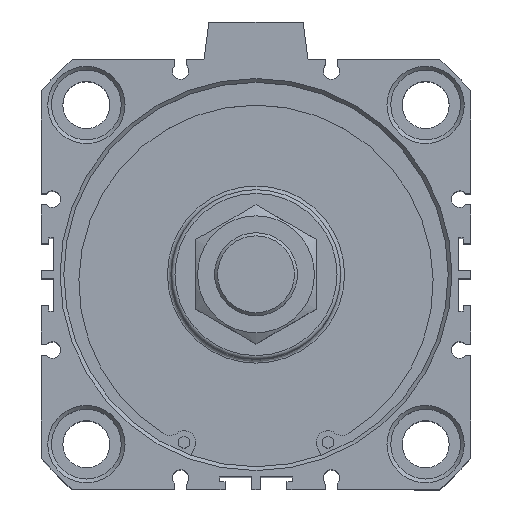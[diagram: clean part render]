
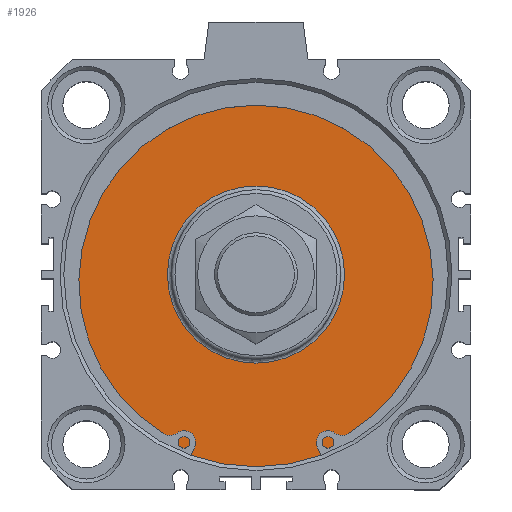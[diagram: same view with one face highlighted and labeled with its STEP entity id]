
A CAD part, top view. The second image highlights one B-rep face of the part: STEP entity #1926.
In plain terms, the highlighted planar face has unit normal (0, 0, 1).
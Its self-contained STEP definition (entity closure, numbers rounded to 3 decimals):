
#1875=CARTESIAN_POINT('',(-3.11,25.175,87.6));
#1876=VERTEX_POINT('',#1875);
#1877=CARTESIAN_POINT('',(-3.11,1.675,87.6));
#1878=DIRECTION('',(0.0,0.0,1.0));
#1879=DIRECTION('',(0.0,-1.0,0.0));
#1880=AXIS2_PLACEMENT_3D('',#1877,#1878,#1879);
#1881=CIRCLE('',#1880,23.5);
#1882=EDGE_CURVE('',#1876,#1876,#1881,.T.);
#1907=CARTESIAN_POINT('',(-3.11,38.425,87.6));
#1908=DIRECTION('',(0.0,0.0,1.0));
#1909=DIRECTION('',(1.0,0.0,0.0));
#1910=AXIS2_PLACEMENT_3D('',#1907,#1908,#1909);
#1911=PLANE('',#1910);
#1912=CARTESIAN_POINT('',(-3.11,52.675,87.6));
#1913=VERTEX_POINT('',#1912);
#1914=CARTESIAN_POINT('',(-3.11,1.675,87.6));
#1915=DIRECTION('',(0.0,0.0,-1.0));
#1916=DIRECTION('',(0.0,1.0,0.0));
#1917=AXIS2_PLACEMENT_3D('',#1914,#1915,#1916);
#1918=CIRCLE('',#1917,51.0);
#1919=EDGE_CURVE('',#1913,#1913,#1918,.T.);
#1920=ORIENTED_EDGE('',*,*,#1919,.F.);
#1921=EDGE_LOOP('',(#1920));
#1922=FACE_OUTER_BOUND('',#1921,.T.);
#1923=ORIENTED_EDGE('',*,*,#1882,.F.);
#1924=EDGE_LOOP('',(#1923));
#1925=FACE_BOUND('',#1924,.T.);
#1926=ADVANCED_FACE('',(#1922,#1925),#1911,.T.);
